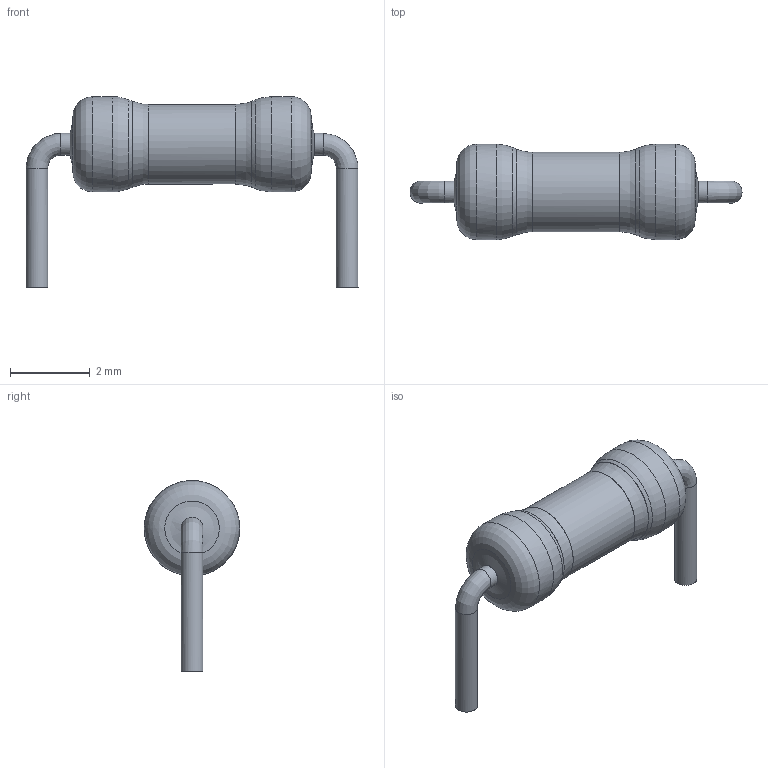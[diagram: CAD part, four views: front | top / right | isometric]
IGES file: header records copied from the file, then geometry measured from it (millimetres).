
Global section: file name: Filename.iges; native system: Open CASCADE 6.8; preprocessor: Open CASCADE IGES processor 6.8; date: 20170202.181610; units: millimetre
Bounding box: 8.35 x 2.4 x 4.8 mm (x, y, z)
Surface area: 61.8 mm2 (no closed solid volume)
Topology: 0 solids, 0 shells, 21 faces, 82 edges, 48 vertices
Faces by surface type: revolution 19, plane 2
